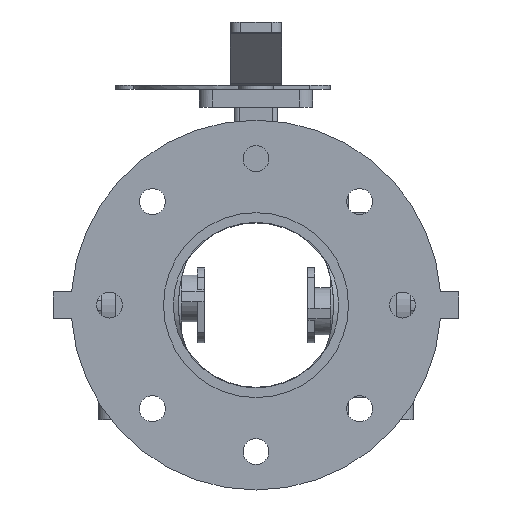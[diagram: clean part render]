
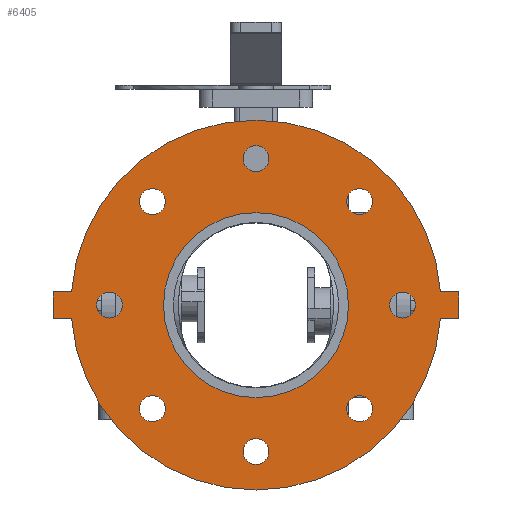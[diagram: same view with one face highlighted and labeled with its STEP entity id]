
A CAD part, front view. The second image highlights one B-rep face of the part: STEP entity #6405.
In plain terms, the highlighted planar face has unit normal (0, -1, 0) as drawn and (0, 0, -1) by its records, which use the part's own axes.
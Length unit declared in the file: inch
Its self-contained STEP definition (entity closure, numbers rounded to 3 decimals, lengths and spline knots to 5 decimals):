
#146=FACE_BOUND('',#788,.T.);
#147=FACE_BOUND('',#789,.T.);
#148=FACE_BOUND('',#790,.T.);
#149=FACE_BOUND('',#791,.T.);
#150=FACE_BOUND('',#792,.T.);
#151=FACE_BOUND('',#793,.T.);
#152=FACE_BOUND('',#794,.T.);
#153=FACE_BOUND('',#795,.T.);
#154=FACE_BOUND('',#796,.T.);
#224=PLANE('',#6925);
#434=FACE_OUTER_BOUND('',#787,.T.);
#787=EDGE_LOOP('',(#4162,#4163,#4164,#4165,#4166,#4167,#4168,#4169));
#788=EDGE_LOOP('',(#4170));
#789=EDGE_LOOP('',(#4171));
#790=EDGE_LOOP('',(#4172));
#791=EDGE_LOOP('',(#4173));
#792=EDGE_LOOP('',(#4174));
#793=EDGE_LOOP('',(#4175));
#794=EDGE_LOOP('',(#4176));
#795=EDGE_LOOP('',(#4177));
#796=EDGE_LOOP('',(#4178));
#1197=LINE('',#9671,#1701);
#1200=LINE('',#9677,#1704);
#1203=LINE('',#9682,#1707);
#1205=LINE('',#9687,#1709);
#1209=LINE('',#9694,#1713);
#1211=LINE('',#9697,#1715);
#1701=VECTOR('',#7704,0.3937);
#1704=VECTOR('',#7709,0.3937);
#1707=VECTOR('',#7714,0.3937);
#1709=VECTOR('',#7718,0.3937);
#1713=VECTOR('',#7724,0.3937);
#1715=VECTOR('',#7728,0.3937);
#2193=CIRCLE('',#6887,0.315);
#2195=CIRCLE('',#6890,0.315);
#2197=CIRCLE('',#6893,0.315);
#2199=CIRCLE('',#6896,0.315);
#2201=CIRCLE('',#6899,0.315);
#2203=CIRCLE('',#6902,0.315);
#2205=CIRCLE('',#6905,0.315);
#2207=CIRCLE('',#6908,0.315);
#2208=CIRCLE('',#6910,2.25);
#2210=CIRCLE('',#6913,4.5);
#2213=CIRCLE('',#6917,4.5);
#2550=VERTEX_POINT('',#9600);
#2552=VERTEX_POINT('',#9606);
#2554=VERTEX_POINT('',#9612);
#2556=VERTEX_POINT('',#9618);
#2558=VERTEX_POINT('',#9624);
#2560=VERTEX_POINT('',#9630);
#2562=VERTEX_POINT('',#9636);
#2564=VERTEX_POINT('',#9642);
#2565=VERTEX_POINT('',#9646);
#2567=VERTEX_POINT('',#9652);
#2569=VERTEX_POINT('',#9655);
#2571=VERTEX_POINT('',#9661);
#2574=VERTEX_POINT('',#9666);
#2575=VERTEX_POINT('',#9670);
#2577=VERTEX_POINT('',#9676);
#2579=VERTEX_POINT('',#9685);
#2580=VERTEX_POINT('',#9686);
#3162=EDGE_CURVE('',#2550,#2550,#2193,.T.);
#3165=EDGE_CURVE('',#2552,#2552,#2195,.T.);
#3168=EDGE_CURVE('',#2554,#2554,#2197,.T.);
#3171=EDGE_CURVE('',#2556,#2556,#2199,.T.);
#3174=EDGE_CURVE('',#2558,#2558,#2201,.T.);
#3177=EDGE_CURVE('',#2560,#2560,#2203,.T.);
#3180=EDGE_CURVE('',#2562,#2562,#2205,.T.);
#3183=EDGE_CURVE('',#2564,#2564,#2207,.T.);
#3184=EDGE_CURVE('',#2565,#2565,#2208,.T.);
#3188=EDGE_CURVE('',#2567,#2569,#2210,.T.);
#3194=EDGE_CURVE('',#2574,#2571,#2213,.T.);
#3195=EDGE_CURVE('',#2569,#2575,#1197,.T.);
#3198=EDGE_CURVE('',#2577,#2574,#1200,.T.);
#3201=EDGE_CURVE('',#2575,#2577,#1203,.T.);
#3203=EDGE_CURVE('',#2579,#2580,#1205,.T.);
#3207=EDGE_CURVE('',#2571,#2579,#1209,.T.);
#3209=EDGE_CURVE('',#2580,#2567,#1211,.T.);
#4162=ORIENTED_EDGE('',*,*,#3209,.F.);
#4163=ORIENTED_EDGE('',*,*,#3203,.F.);
#4164=ORIENTED_EDGE('',*,*,#3207,.F.);
#4165=ORIENTED_EDGE('',*,*,#3194,.F.);
#4166=ORIENTED_EDGE('',*,*,#3198,.F.);
#4167=ORIENTED_EDGE('',*,*,#3201,.F.);
#4168=ORIENTED_EDGE('',*,*,#3195,.F.);
#4169=ORIENTED_EDGE('',*,*,#3188,.F.);
#4170=ORIENTED_EDGE('',*,*,#3162,.T.);
#4171=ORIENTED_EDGE('',*,*,#3165,.T.);
#4172=ORIENTED_EDGE('',*,*,#3168,.T.);
#4173=ORIENTED_EDGE('',*,*,#3171,.T.);
#4174=ORIENTED_EDGE('',*,*,#3174,.T.);
#4175=ORIENTED_EDGE('',*,*,#3177,.T.);
#4176=ORIENTED_EDGE('',*,*,#3180,.T.);
#4177=ORIENTED_EDGE('',*,*,#3183,.T.);
#4178=ORIENTED_EDGE('',*,*,#3184,.T.);
#6405=ADVANCED_FACE('',(#434,#146,#147,#148,#149,#150,#151,#152,#153,#154),
#224,.F.);
#6887=AXIS2_PLACEMENT_3D('',#9602,#7628,#7629);
#6890=AXIS2_PLACEMENT_3D('',#9608,#7635,#7636);
#6893=AXIS2_PLACEMENT_3D('',#9614,#7642,#7643);
#6896=AXIS2_PLACEMENT_3D('',#9620,#7649,#7650);
#6899=AXIS2_PLACEMENT_3D('',#9626,#7656,#7657);
#6902=AXIS2_PLACEMENT_3D('',#9632,#7663,#7664);
#6905=AXIS2_PLACEMENT_3D('',#9638,#7670,#7671);
#6908=AXIS2_PLACEMENT_3D('',#9644,#7677,#7678);
#6910=AXIS2_PLACEMENT_3D('',#9647,#7681,#7682);
#6913=AXIS2_PLACEMENT_3D('',#9656,#7689,#7690);
#6917=AXIS2_PLACEMENT_3D('',#9668,#7700,#7701);
#6925=AXIS2_PLACEMENT_3D('',#9700,#7732,#7733);
#7628=DIRECTION('center_axis',(0.,0.,1.));
#7629=DIRECTION('ref_axis',(-0.707,-0.707,0.));
#7635=DIRECTION('center_axis',(0.,0.,1.));
#7636=DIRECTION('ref_axis',(-1.,0.,0.));
#7642=DIRECTION('center_axis',(0.,0.,1.));
#7643=DIRECTION('ref_axis',(-0.707,0.707,0.));
#7649=DIRECTION('center_axis',(0.,0.,1.));
#7650=DIRECTION('ref_axis',(0.,1.,0.));
#7656=DIRECTION('center_axis',(0.,0.,1.));
#7657=DIRECTION('ref_axis',(0.707,0.707,0.));
#7663=DIRECTION('center_axis',(0.,0.,1.));
#7664=DIRECTION('ref_axis',(1.,0.,0.));
#7670=DIRECTION('center_axis',(0.,0.,1.));
#7671=DIRECTION('ref_axis',(0.707,-0.707,0.));
#7677=DIRECTION('center_axis',(0.,0.,1.));
#7678=DIRECTION('ref_axis',(0.,-1.,0.));
#7681=DIRECTION('center_axis',(0.,0.,1.));
#7682=DIRECTION('ref_axis',(0.,-1.,0.));
#7689=DIRECTION('center_axis',(0.,0.,1.));
#7690=DIRECTION('ref_axis',(0.,1.,0.));
#7700=DIRECTION('center_axis',(0.,0.,1.));
#7701=DIRECTION('ref_axis',(0.,1.,0.));
#7704=DIRECTION('',(0.,-1.,0.));
#7709=DIRECTION('',(0.,1.,0.));
#7714=DIRECTION('',(1.,0.,0.));
#7718=DIRECTION('',(-1.,0.,0.));
#7724=DIRECTION('',(0.,1.,0.));
#7728=DIRECTION('',(0.,-1.,0.));
#7732=DIRECTION('center_axis',(0.,0.,1.));
#7733=DIRECTION('ref_axis',(0.,1.,0.));
#9600=CARTESIAN_POINT('',(-2.2981,2.74357,0.));
#9602=CARTESIAN_POINT('Origin',(-2.52084,2.52084,0.));
#9606=CARTESIAN_POINT('',(0.315,3.565,0.));
#9608=CARTESIAN_POINT('Origin',(0.,3.565,0.));
#9612=CARTESIAN_POINT('',(2.74357,2.2981,0.));
#9614=CARTESIAN_POINT('Origin',(2.52084,2.52084,0.));
#9618=CARTESIAN_POINT('',(3.565,-0.315,0.));
#9620=CARTESIAN_POINT('Origin',(3.565,0.,0.));
#9624=CARTESIAN_POINT('',(2.2981,-2.74357,0.));
#9626=CARTESIAN_POINT('Origin',(2.52084,-2.52084,0.));
#9630=CARTESIAN_POINT('',(-0.315,-3.565,0.));
#9632=CARTESIAN_POINT('Origin',(0.,-3.565,0.));
#9636=CARTESIAN_POINT('',(-2.74357,-2.2981,0.));
#9638=CARTESIAN_POINT('Origin',(-2.52084,-2.52084,0.));
#9642=CARTESIAN_POINT('',(-3.565,0.315,0.));
#9644=CARTESIAN_POINT('Origin',(-3.565,0.,0.));
#9646=CARTESIAN_POINT('',(0.,2.25,0.));
#9647=CARTESIAN_POINT('Origin',(0.,0.,0.));
#9652=CARTESIAN_POINT('',(-0.32,4.48861,0.));
#9655=CARTESIAN_POINT('',(-0.32,-4.48861,0.));
#9656=CARTESIAN_POINT('Origin',(0.,0.,0.));
#9661=CARTESIAN_POINT('',(0.32,4.48861,0.));
#9666=CARTESIAN_POINT('',(0.32,-4.48861,0.));
#9668=CARTESIAN_POINT('Origin',(0.,0.,0.));
#9670=CARTESIAN_POINT('',(-0.32,-4.94,0.));
#9671=CARTESIAN_POINT('',(-0.32,-4.48861,0.));
#9676=CARTESIAN_POINT('',(0.32,-4.94,0.));
#9677=CARTESIAN_POINT('',(0.32,-4.94,0.));
#9682=CARTESIAN_POINT('',(-0.32,-4.94,0.));
#9685=CARTESIAN_POINT('',(0.32,4.94,0.));
#9686=CARTESIAN_POINT('',(-0.32,4.94,0.));
#9687=CARTESIAN_POINT('',(0.32,4.94,0.));
#9694=CARTESIAN_POINT('',(0.32,4.48861,0.));
#9697=CARTESIAN_POINT('',(-0.32,4.94,0.));
#9700=CARTESIAN_POINT('Origin',(0.,4.73391,0.));
